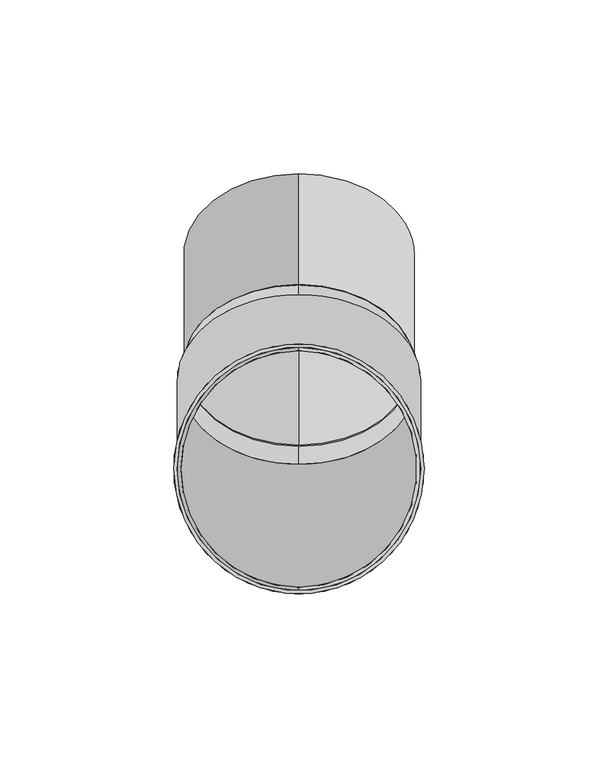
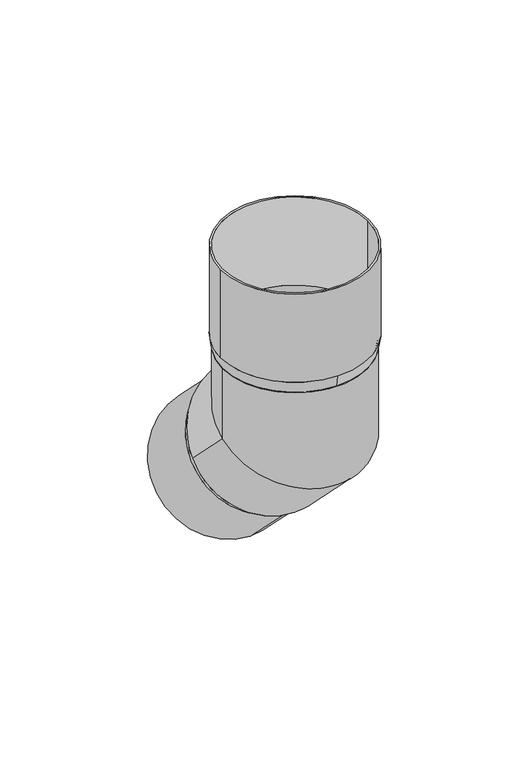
"""IFC4 building model written with IfcOpenShell, lengths in millimetres: proxy geometry, GROVIK_Downpipe_Knee : N70_45°_Down."""

from ifc_helpers import new_model, si_unit, point, frame, origin, origin_with_axes, origin_2d, place, context, project, spatial, polyline, circle_curve, ellipse_curve, trimmed, segment, composite_curve, outline, extrude, source, transform, mapped, element, save
from ifc_brep_helpers import plane_surface, cylinder_surface, revolved_surface, advanced_brep


def generic_models_76eba0c6(model_context):
    return source(origin(), model_context, "Body", "SolidModel", [
        extrude(outline(composite_curve([segment(trimmed(circle_curve(origin_2d(), 36.0), [point((-36.0, 0.0))], [point((36.0, 0.0))], False, "CARTESIAN"), True, "CONTINUOUS"), segment(trimmed(circle_curve(origin_2d(), 36.0), [point((36.0, 0.0))], [point((-36.0, 0.0))], False, "CARTESIAN"), True, "CONTINUOUS")], self_intersect=False), holes=[composite_curve([segment(trimmed(circle_curve(origin_2d(), 35.0), [point((-35.0, 0.0))], [point((35.0, 0.0))], True, "CARTESIAN"), True, "CONTINUOUS"), segment(trimmed(circle_curve(origin_2d(), 35.0), [point((35.0, 0.0))], [point((-35.0, 0.0))], True, "CARTESIAN"), True, "CONTINUOUS")], self_intersect=False)]), frame((0.0, 0.0, 6.0), z_axis=(0.0, 0.0, 1.0), x_axis=(1.0, 0.0, 0.0)), (0.0, 0.0, 1.0), 45.0),
        advanced_brep(
        [(-35.0, 0.0, 0.0), (35.0, 0.0, 0.0), (-34.0, 0.0, 0.0), (34.0, 0.0, 0.0), (-34.0, 0.0, -35.9), (34.0, 0.0, -35.9), (-35.0, 0.0, -35.9), (35.0, 0.0, -35.9), (-35.0, 25.3851334, -61.2851334), (35.0, 25.3851334, -61.2851334), (-34.0, 25.3851334, -61.2851334), (34.0, 25.3851334, -61.2851334)],
        [
            (0, 1, circle_curve(origin_with_axes(), 35.0)),
            (1, 0, circle_curve(origin_with_axes(), 35.0)),
            (2, 3, circle_curve(frame((0.0, 0.0, 0.0), z_axis=(0.0, 0.0, -1.0), x_axis=(1.0, 0.0, 0.0)), 34.0)),
            (3, 2, circle_curve(frame((0.0, 0.0, 0.0), z_axis=(0.0, 0.0, -1.0), x_axis=(1.0, 0.0, 0.0)), 34.0)),
            (2, 4),
            (4, 5, ellipse_curve(frame((0.0, 0.0, -35.9), z_axis=(0.0, 0.38268343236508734, -0.9238795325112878), x_axis=(0.0, -0.9238795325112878, -0.3826834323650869)), 36.8013348, 34.0)),
            (5, 3),
            (5, 4, ellipse_curve(frame((0.0, 0.0, -35.9), z_axis=(0.0, 0.38268343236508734, -0.9238795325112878), x_axis=(0.0, -0.9238795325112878, -0.3826834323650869)), 36.8013348, 34.0)),
            (0, 6),
            (6, 7, ellipse_curve(frame((0.0, 0.0, -35.9), z_axis=(0.0, -0.38268343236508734, 0.9238795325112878), x_axis=(0.0, 0.9238795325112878, 0.3826834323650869)), 37.883727, 35.0)),
            (7, 1),
            (7, 6, ellipse_curve(frame((0.0, 0.0, -35.9), z_axis=(0.0, -0.38268343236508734, 0.9238795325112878), x_axis=(0.0, 0.9238795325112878, 0.3826834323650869)), 37.883727, 35.0)),
            (8, 9, circle_curve(frame((0.0, 25.3851334, -61.2851334), z_axis=(0.0, 0.7071067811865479, -0.7071067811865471), x_axis=(1.0, 0.0, 0.0)), 35.0)),
            (9, 8, circle_curve(frame((0.0, 25.3851334, -61.2851334), z_axis=(0.0, 0.7071067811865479, -0.7071067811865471), x_axis=(1.0, 0.0, 0.0)), 35.0)),
            (10, 11, circle_curve(frame((0.0, 25.3851334, -61.2851334), z_axis=(0.0, -0.7071067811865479, 0.7071067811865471), x_axis=(1.0, 0.0, 0.0)), 34.0)),
            (11, 10, circle_curve(frame((0.0, 25.3851334, -61.2851334), z_axis=(0.0, -0.7071067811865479, 0.7071067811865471), x_axis=(1.0, 0.0, 0.0)), 34.0)),
            (4, 10),
            (11, 5),
            (6, 8),
            (9, 7),
        ],
        [
            plane_surface(origin_with_axes()),
            revolved_surface(polyline([(34.0, 0.0, -49.98326111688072), (34.0, 0.0, 0.0)]), (0.0, 0.0, 0.0), (0.0, 0.0, -1.0)),
            cylinder_surface(origin_with_axes(), 35.0),
            plane_surface(frame((0.0, 25.3851334, -61.2851334), z_axis=(0.0, 0.7071067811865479, -0.7071067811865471), x_axis=(1.0, 0.0, 0.0))),
            revolved_surface(polyline([(34.0, 25.38513340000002, -61.28513339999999), (34.0, -9.958369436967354, -25.941630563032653)]), (0.0, 0.0, -35.9), (0.0, 0.7071067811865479, -0.7071067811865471)),
            cylinder_surface(frame((0.0, 0.0, -35.9), z_axis=(0.0, -0.7071067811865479, 0.7071067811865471), x_axis=(1.0, 0.0, 0.0)), 35.0),
        ],
        [
            (0, [[1, 2], [3, 4]]),
            (1, [[-3, 5, 6, 7]]),
            (1, [[-4, -7, 8, -5]]),
            (2, [[-1, 9, 10, 11]]),
            (2, [[-2, -11, 12, -9]]),
            (3, [[13, 14], [15, 16]]),
            (4, [[-6, 17, -16, 18]]),
            (4, [[-8, -18, -15, -17]]),
            (5, [[-10, 19, -14, 20]]),
            (5, [[-12, -20, -13, -19]]),
        ],
    ),
        extrude(outline(composite_curve([segment(trimmed(circle_curve(origin_2d(), 33.2), [point((0.0, 33.2))], [point((0.0, -33.2))], False, "CARTESIAN"), True, "CONTINUOUS"), segment(trimmed(circle_curve(origin_2d(), 33.2), [point((0.0, -33.2))], [point((0.0, 33.2))], False, "CARTESIAN"), True, "CONTINUOUS")], self_intersect=False), holes=[composite_curve([segment(trimmed(circle_curve(origin_2d(), 32.2), [point((0.0, 32.2))], [point((0.0, -32.2))], True, "CARTESIAN"), True, "CONTINUOUS"), segment(trimmed(circle_curve(origin_2d(), 32.2), [point((0.0, -32.2))], [point((0.0, 32.2))], True, "CARTESIAN"), True, "CONTINUOUS")], self_intersect=False)]), frame((0.0, 61.4475793, -97.3475793), z_axis=(0.0, -0.7071067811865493, 0.7071067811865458), x_axis=(1.0, 0.0, 0.0)), (0.0, 0.0, 1.0), 45.0),
        advanced_brep(
        [(0.0, 36.0, 6.0), (0.0, -36.0, 6.0), (0.0, 35.0, 6.0), (0.0, -35.0, 6.0), (0.0, 35.0, 0.0), (0.0, -35.0, 0.0), (0.0, -34.0, 0.0), (0.0, 34.0, 0.0)],
        [
            (0, 1, circle_curve(frame((0.0, 0.0, 6.0), z_axis=(0.0, 0.0, 1.0), x_axis=(0.0, 1.0, 0.0)), 36.0)),
            (1, 0, circle_curve(frame((0.0, 0.0, 6.0), z_axis=(0.0, 0.0, 1.0), x_axis=(0.0, -1.0, 0.0)), 36.0)),
            (2, 3, circle_curve(frame((0.0, 0.0, 6.0), z_axis=(0.0, 0.0, -1.0), x_axis=(0.0, -1.0, 0.0)), 35.0)),
            (3, 2, circle_curve(frame((0.0, 0.0, 6.0), z_axis=(0.0, 0.0, -1.0), x_axis=(0.0, 1.0, 0.0)), 35.0)),
            (4, 5, circle_curve(frame((0.0, 0.0, 0.0), z_axis=(0.0, 0.0, -1.0), x_axis=(0.0, -1.0, 0.0)), 35.0)),
            (5, 4, circle_curve(frame((0.0, 0.0, 0.0), z_axis=(0.0, 0.0, -1.0), x_axis=(0.0, 1.0, 0.0)), 35.0)),
            (6, 7, circle_curve(frame((0.0, 0.0, 0.0), z_axis=(0.0, 0.0, 1.0), x_axis=(0.0, -1.0, 0.0)), 34.0)),
            (7, 6, circle_curve(frame((0.0, 0.0, 0.0), z_axis=(0.0, 0.0, 1.0), x_axis=(0.0, 1.0, 0.0)), 34.0)),
            (1, 5),
            (4, 0),
            (6, 3),
            (2, 7),
        ],
        [
            plane_surface(frame((0.0, 0.0, 6.0), z_axis=(0.0, 0.0, 1.0), x_axis=(-1.0, 0.0, 0.0))),
            plane_surface(frame((0.0, 0.0, 0.0), z_axis=(0.0, 0.0, -1.0), x_axis=(-1.0, 0.0, 0.0))),
            revolved_surface(polyline([(0.0, 35.0, 0.0), (0.0, 36.0, 6.0)]), (0.0, 0.0, -210.0), (0.0, 0.0, 1.0)),
            revolved_surface(polyline([(0.0, -35.0, 0.0), (0.0, -36.0, 6.0)]), (0.0, 0.0, -210.0), (0.0, 0.0, 1.0)),
            revolved_surface(polyline([(0.0, -35.0, 6.0), (0.0, -34.0, 0.0)]), (0.0, 0.0, -204.0), (0.0, 0.0, 1.0)),
        ],
        [
            (0, [[1, 2], [3, 4]]),
            (1, [[5, 6], [7, 8]]),
            (2, [[-2, 9, -5, 10]]),
            (3, [[-1, -10, -6, -9]]),
            (4, [[11, -3, 12, -7]]),
            (4, [[-11, -8, -12, -4]]),
        ],
    ),
        advanced_brep(
        [(0.0, 6.151829, -89.0037193), (0.0, 53.1037193, -42.051829), (0.0, 6.8589358, -88.2966125), (0.0, 52.3966125, -42.7589358), (0.0, 0.6363961, -86.0338708), (0.0, 50.1338708, -36.5363961), (0.0, 49.426764, -37.2435029), (0.0, 1.3435029, -85.326764)],
        [
            (0, 1, circle_curve(frame((0.0, 29.6277741, -65.5277741), z_axis=(0.0, 0.7071067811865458, -0.7071067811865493), x_axis=(0.0, -0.7071067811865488, -0.7071067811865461)), 33.2)),
            (1, 0, circle_curve(frame((0.0, 29.6277741, -65.5277741), z_axis=(0.0, 0.7071067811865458, -0.7071067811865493), x_axis=(0.0, 0.7071067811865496, 0.7071067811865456)), 33.2)),
            (2, 3, circle_curve(frame((0.0, 29.6277741, -65.5277741), z_axis=(0.0, -0.7071067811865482, 0.7071067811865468), x_axis=(0.0, 0.7071067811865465, 0.7071067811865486)), 32.2)),
            (3, 2, circle_curve(frame((0.0, 29.6277741, -65.5277741), z_axis=(0.0, -0.7071067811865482, 0.7071067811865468), x_axis=(0.0, -0.7071067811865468, -0.7071067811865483)), 32.2)),
            (4, 5, circle_curve(frame((0.0, 25.3851334, -61.2851334), z_axis=(0.0, -0.7071067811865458, 0.7071067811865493), x_axis=(0.0, 0.7071067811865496, 0.7071067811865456)), 35.0)),
            (5, 4, circle_curve(frame((0.0, 25.3851334, -61.2851334), z_axis=(0.0, -0.7071067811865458, 0.7071067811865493), x_axis=(0.0, -0.7071067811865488, -0.7071067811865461)), 35.0)),
            (6, 7, circle_curve(frame((0.0, 25.3851334, -61.2851334), z_axis=(0.0, 0.7071067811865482, -0.7071067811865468), x_axis=(0.0, 0.7071067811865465, 0.7071067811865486)), 34.0)),
            (7, 6, circle_curve(frame((0.0, 25.3851334, -61.2851334), z_axis=(0.0, 0.7071067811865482, -0.7071067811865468), x_axis=(0.0, -0.7071067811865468, -0.7071067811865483)), 34.0)),
            (1, 5),
            (4, 0),
            (6, 3),
            (2, 7),
        ],
        [
            plane_surface(frame((0.0, 29.6277741, -65.5277741), z_axis=(0.0, 0.7071067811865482, -0.7071067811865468), x_axis=(-1.0, 0.0, 0.0))),
            plane_surface(frame((0.0, 25.3851334, -61.2851334), z_axis=(0.0, -0.7071067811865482, 0.7071067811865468), x_axis=(-1.0, 0.0, 0.0))),
            revolved_surface(polyline([(0.0, 53.10371928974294, -42.05182901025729), (0.0, 50.13387076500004, -36.53639603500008)]), (0.0, 107.8809246, -143.7809246), (0.0, -0.7071067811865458, 0.7071067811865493)),
            revolved_surface(polyline([(0.0, 6.151829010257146, -89.00371928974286), (0.0, 0.6363960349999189, -86.03387076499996)]), (0.0, 107.8809246, -143.7809246), (0.0, -0.7071067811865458, 0.7071067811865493)),
            revolved_surface(polyline([(0.0, 49.426763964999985, -37.24350283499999), (0.0, 52.39661249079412, -42.758935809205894)]), (0.0, 105.523902, -141.423902), (0.0, -0.7071067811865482, 0.7071067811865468)),
        ],
        [
            (0, [[1, 2], [3, 4]]),
            (1, [[5, 6], [7, 8]]),
            (2, [[-2, 9, -5, 10]]),
            (3, [[-1, -10, -6, -9]]),
            (4, [[11, -3, 12, -7]]),
            (4, [[-11, -8, -12, -4]]),
        ],
    ),
    ])


if __name__ == "__main__":
    model = new_model("IFC4")
    model_context = context("Model", 3, world=origin())
    ifc_project = project(units=[si_unit("LENGTHUNIT", "METRE", prefix="MILLI")], contexts=[model_context])
    site = spatial("IfcSite", under=ifc_project)
    building = spatial("IfcBuilding", under=site)
    placement = place(None, origin())
    generic_models_shape = generic_models_76eba0c6(model_context)
    element("IfcBuildingElementProxy", 1, Name="GROVIK_Downpipe_Knee : N70_45°_Down", ObjectType="GROVIK_Downpipe_Knee : N70_45°_Down", at=placement, inside=building, context=model_context, shape_type="MappedRepresentation", body=[
        mapped(generic_models_shape, transform((0.0, 0.0, 0.0), x_axis=(1.0, 0.0, 0.0), y_axis=(0.0, 1.0, 0.0), z_axis=(0.0, 0.0, 1.0))),
    ])
    save(model, "model.ifc")
